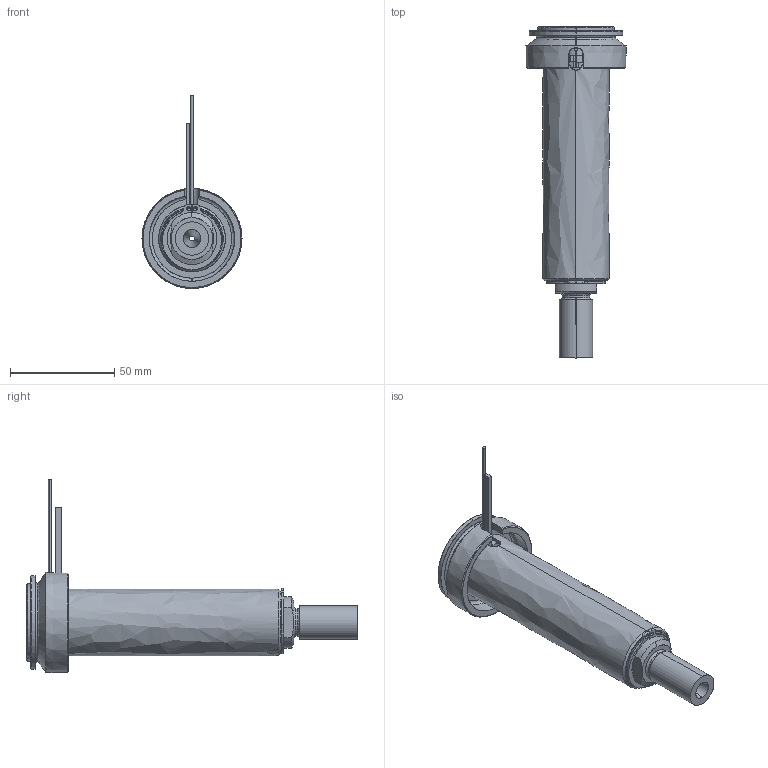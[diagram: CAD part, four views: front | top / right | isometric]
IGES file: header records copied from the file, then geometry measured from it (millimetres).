
Start section: SolidWorks IGES file using analytic representation for surfaces
Global section: file name: C:\Documents and Settings\ws-20\Desktop\TEMPORANEA\UGBE5003-M-A-P-5 [Ød-2.5 P-25 ØC-12].IGS; native system: SolidWorks 2012; preprocessor: SolidWorks 2012; author: ws-20; date: 120306.145522; units: millimetre
Bounding box: 48 x 159.25 x 92.62 mm (x, y, z)
Surface area: 51120.1 mm2 (no closed solid volume)
Topology: 0 solids, 0 shells, 107 faces, 2022 edges, 2022 vertices
Faces by surface type: revolution 62, bspline 45
